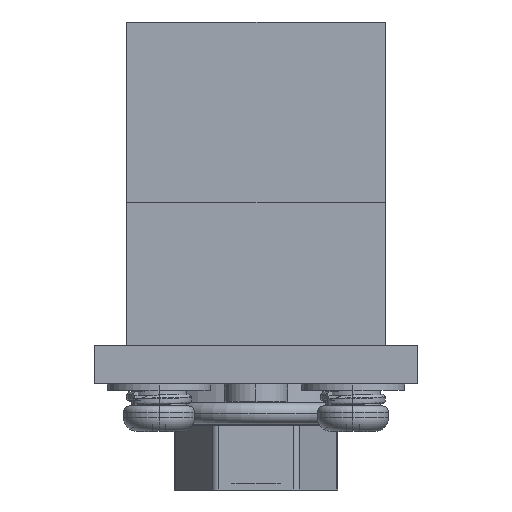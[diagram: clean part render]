
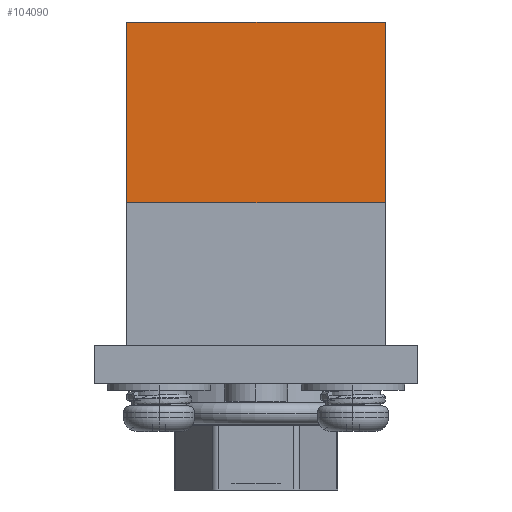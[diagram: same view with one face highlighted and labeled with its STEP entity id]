
A CAD part, left-side view. The second image highlights one B-rep face of the part: STEP entity #104090.
In plain terms, the highlighted planar face has unit normal (-1, 0, 0).
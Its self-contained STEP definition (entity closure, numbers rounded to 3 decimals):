
#101870=CARTESIAN_POINT('',(-27.488,66.46,28.));
#101880=VERTEX_POINT('',#101870);
#101930=CARTESIAN_POINT('',(-27.488,66.46,14.));
#101940=DIRECTION('',(0.,0.,1.));
#101950=VECTOR('',#101940,1.);
#101960=LINE('',#101930,#101950);
#101970=CARTESIAN_POINT('',(-27.488,66.46,14.));
#101980=VERTEX_POINT('',#101970);
#101990=EDGE_CURVE('',#101980,#101880,#101960,.T.);
#102690=CARTESIAN_POINT('',(-27.488,46.46,14.));
#102700=VERTEX_POINT('',#102690);
#102730=CARTESIAN_POINT('',(-27.488,46.46,14.));
#102740=DIRECTION('',(0.,0.,1.));
#102750=VECTOR('',#102740,1.);
#102760=LINE('',#102730,#102750);
#102770=CARTESIAN_POINT('',(-27.488,46.46,28.));
#102780=VERTEX_POINT('',#102770);
#102790=EDGE_CURVE('',#102700,#102780,#102760,.T.);
#103670=CARTESIAN_POINT('',(-27.488,66.46,14.));
#103680=DIRECTION('',(0.,-1.,0.));
#103690=VECTOR('',#103680,1.);
#103700=LINE('',#103670,#103690);
#103710=EDGE_CURVE('',#101980,#102700,#103700,.T.);
#103930=CARTESIAN_POINT('',(-27.488,66.46,28.));
#103940=DIRECTION('',(1.,0.,-0.));
#103950=DIRECTION('',(0.,0.,1.));
#103960=AXIS2_PLACEMENT_3D('',#103930,#103940,#103950);
#103970=PLANE('',#103960);
#103980=ORIENTED_EDGE('',*,*,#101990,.F.);
#103990=CARTESIAN_POINT('',(-27.488,66.46,28.));
#104000=DIRECTION('',(0.,-1.,0.));
#104010=VECTOR('',#104000,1.);
#104020=LINE('',#103990,#104010);
#104030=EDGE_CURVE('',#101880,#102780,#104020,.T.);
#104040=ORIENTED_EDGE('',*,*,#104030,.F.);
#104050=ORIENTED_EDGE('',*,*,#102790,.T.);
#104060=ORIENTED_EDGE('',*,*,#103710,.T.);
#104070=EDGE_LOOP('',(#104060,#104050,#104040,#103980));
#104080=FACE_OUTER_BOUND('',#104070,.T.);
#104090=ADVANCED_FACE('',(#104080),#103970,.F.);
